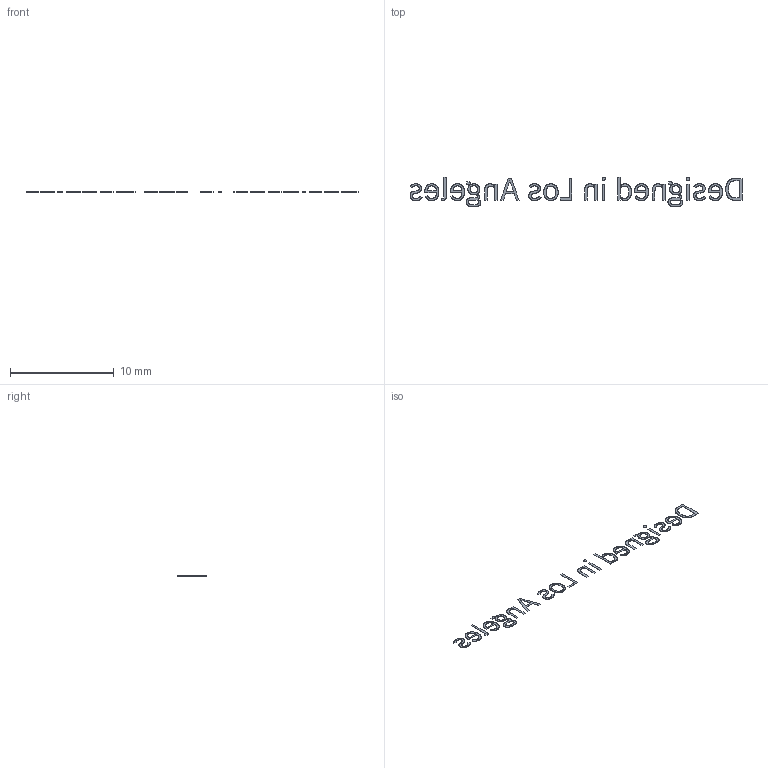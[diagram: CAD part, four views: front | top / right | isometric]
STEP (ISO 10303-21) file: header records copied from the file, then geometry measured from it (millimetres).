
FILE_DESCRIPTION(('Open CASCADE Model'),'2;1');
FILE_NAME('Open CASCADE Shape Model','2026-09-06T11:30:38',('Author'),( 'Open CASCADE'),'Open CASCADE STEP processor 7.7','Open CASCADE 7.7' ,'Unknown');
FILE_SCHEMA(('AUTOMOTIVE_DESIGN { 1 0 10303 214 1 1 1 1 }'));
Length unit declared in the file: millimetre
Products named in the file (23): Open CASCADE STEP translator 7.7 25; Open CASCADE STEP translator 7.7 25.1; Open CASCADE STEP translator 7.7 25.2; Open CASCADE STEP translator 7.7 25.3; Open CASCADE STEP translator 7.7 25.4; Open CASCADE STEP translator 7.7 25.5; Open CASCADE STEP translator 7.7 25.6; Open CASCADE STEP translator 7.7 25.7; Open CASCADE STEP translator 7.7 25.8; Open CASCADE STEP translator 7.7 25.9; Open CASCADE STEP translator 7.7 25.10; Open CASCADE STEP translator 7.7 25.11; Open CASCADE STEP translator 7.7 25.12; Open CASCADE STEP translator 7.7 25.13; Open CASCADE STEP translator 7.7 25.14; Open CASCADE STEP translator 7.7 25.15; Open CASCADE STEP translator 7.7 25.16; Open CASCADE STEP translator 7.7 25.17; Open CASCADE STEP translator 7.7 25.18; Open CASCADE STEP translator 7.7 25.19; Open CASCADE STEP translator 7.7 25.20; Open CASCADE STEP translator 7.7 25.21; Open CASCADE STEP translator 7.7 25.22
Assembly tree (22 placements, depth 2):
  Open CASCADE STEP translator 7.7 25
    Open CASCADE STEP translator 7.7 25.1
    Open CASCADE STEP translator 7.7 25.2
    Open CASCADE STEP translator 7.7 25.3
    Open CASCADE STEP translator 7.7 25.4
    Open CASCADE STEP translator 7.7 25.5
    Open CASCADE STEP translator 7.7 25.6
    Open CASCADE STEP translator 7.7 25.7
    Open CASCADE STEP translator 7.7 25.8
    Open CASCADE STEP translator 7.7 25.9
    Open CASCADE STEP translator 7.7 25.10
    Open CASCADE STEP translator 7.7 25.11
    Open CASCADE STEP translator 7.7 25.12
    Open CASCADE STEP translator 7.7 25.13
    Open CASCADE STEP translator 7.7 25.14
    Open CASCADE STEP translator 7.7 25.15
    Open CASCADE STEP translator 7.7 25.16
    Open CASCADE STEP translator 7.7 25.17
    Open CASCADE STEP translator 7.7 25.18
    Open CASCADE STEP translator 7.7 25.19
    Open CASCADE STEP translator 7.7 25.20
    Open CASCADE STEP translator 7.7 25.21
    Open CASCADE STEP translator 7.7 25.22
Bounding box: 32 x 2.85 x 0.02 mm (x, y, z)
Volume: 0.4 mm3; surface area: 40.8 mm2
Topology: 22 solids, 22 shells, 11775 faces, 35193 edges, 23462 vertices
Faces by surface type: plane 11775
Entity records: 845488 total; most frequent: CARTESIAN_POINT 140839, DIRECTION 129175, LINE 105579, VECTOR 105579, ORIENTED_EDGE 70386, PCURVE 70386, DEFINITIONAL_REPRESENTATION 70386, EDGE_CURVE 35193
